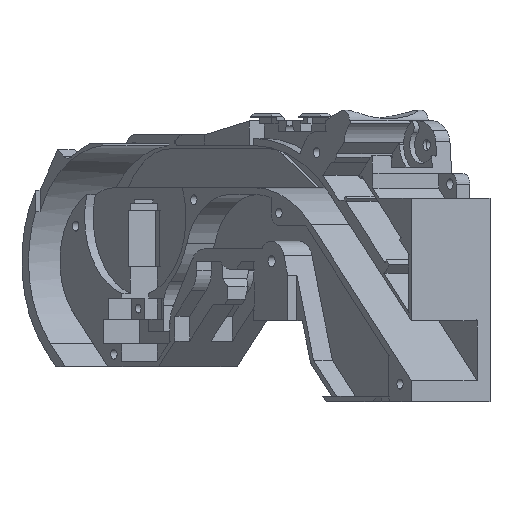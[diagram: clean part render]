
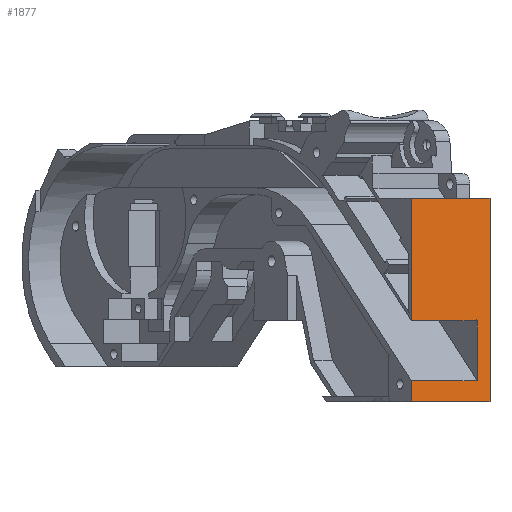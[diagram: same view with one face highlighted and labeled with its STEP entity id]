
A CAD part, left-side view. The second image highlights one B-rep face of the part: STEP entity #1877.
In plain terms, the highlighted planar face has unit normal (-0.767, -0.642, 0).
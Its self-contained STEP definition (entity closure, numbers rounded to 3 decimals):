
#875 = VERTEX_POINT('',#876);
#876 = CARTESIAN_POINT('',(-33.899,-68.575,18.));
#882 = EDGE_CURVE('',#883,#875,#885,.T.);
#883 = VERTEX_POINT('',#884);
#884 = CARTESIAN_POINT('',(-33.899,-68.575,-40.));
#885 = LINE('',#886,#887);
#886 = CARTESIAN_POINT('',(-33.899,-68.575,-40.));
#887 = VECTOR('',#888,1.);
#888 = DIRECTION('',(0.,0.,1.));
#1634 = EDGE_CURVE('',#1635,#883,#1637,.T.);
#1635 = VERTEX_POINT('',#1636);
#1636 = CARTESIAN_POINT('',(-52.666,-46.139,-40.));
#1637 = LINE('',#1638,#1639);
#1638 = CARTESIAN_POINT('',(-53.693,-44.912,-40.));
#1639 = VECTOR('',#1640,1.);
#1640 = DIRECTION('',(0.642,-0.767,0.)
  );
#1877 = ADVANCED_FACE('',(#1878),#1928,.T.);
#1878 = FACE_BOUND('',#1879,.T.);
#1879 = EDGE_LOOP('',(#1880,#1888,#1889,#1890,#1898,#1906,#1914,#1922));
#1880 = ORIENTED_EDGE('',*,*,#1881,.F.);
#1881 = EDGE_CURVE('',#1635,#1882,#1884,.T.);
#1882 = VERTEX_POINT('',#1883);
#1883 = CARTESIAN_POINT('',(-52.666,-46.139,
    -33.971));
#1884 = LINE('',#1885,#1886);
#1885 = CARTESIAN_POINT('',(-52.666,-46.139,
    -23.842));
#1886 = VECTOR('',#1887,1.);
#1887 = DIRECTION('',(0.,0.,1.));
#1888 = ORIENTED_EDGE('',*,*,#1634,.T.);
#1889 = ORIENTED_EDGE('',*,*,#882,.T.);
#1890 = ORIENTED_EDGE('',*,*,#1891,.F.);
#1891 = EDGE_CURVE('',#1892,#875,#1894,.T.);
#1892 = VERTEX_POINT('',#1893);
#1893 = CARTESIAN_POINT('',(-52.666,-46.139,18.));
#1894 = LINE('',#1895,#1896);
#1895 = CARTESIAN_POINT('',(-53.693,-44.912,18.));
#1896 = VECTOR('',#1897,1.);
#1897 = DIRECTION('',(0.642,-0.767,0.)
  );
#1898 = ORIENTED_EDGE('',*,*,#1899,.F.);
#1899 = EDGE_CURVE('',#1900,#1892,#1902,.T.);
#1900 = VERTEX_POINT('',#1901);
#1901 = CARTESIAN_POINT('',(-52.666,-46.139,-17.));
#1902 = LINE('',#1903,#1904);
#1903 = CARTESIAN_POINT('',(-52.666,-46.139,
    -23.842));
#1904 = VECTOR('',#1905,1.);
#1905 = DIRECTION('',(0.,0.,1.));
#1906 = ORIENTED_EDGE('',*,*,#1907,.T.);
#1907 = EDGE_CURVE('',#1900,#1908,#1910,.T.);
#1908 = VERTEX_POINT('',#1909);
#1909 = CARTESIAN_POINT('',(-36.947,-64.932,-17.));
#1910 = LINE('',#1911,#1912);
#1911 = CARTESIAN_POINT('',(-53.693,-44.912,-17.));
#1912 = VECTOR('',#1913,1.);
#1913 = DIRECTION('',(0.642,-0.767,0.)
  );
#1914 = ORIENTED_EDGE('',*,*,#1915,.F.);
#1915 = EDGE_CURVE('',#1916,#1908,#1918,.T.);
#1916 = VERTEX_POINT('',#1917);
#1917 = CARTESIAN_POINT('',(-36.947,-64.932,
    -33.971));
#1918 = LINE('',#1919,#1920);
#1919 = CARTESIAN_POINT('',(-36.947,-64.932,
    -18.322));
#1920 = VECTOR('',#1921,1.);
#1921 = DIRECTION('',(0.,0.,1.));
#1922 = ORIENTED_EDGE('',*,*,#1923,.F.);
#1923 = EDGE_CURVE('',#1882,#1916,#1924,.T.);
#1924 = LINE('',#1925,#1926);
#1925 = CARTESIAN_POINT('',(-53.693,-44.912,
    -33.971));
#1926 = VECTOR('',#1927,1.);
#1927 = DIRECTION('',(0.642,-0.767,0.)
  );
#1928 = PLANE('',#1929);
#1929 = AXIS2_PLACEMENT_3D('',#1930,#1931,#1932);
#1930 = CARTESIAN_POINT('',(-53.693,-44.912,-40.));
#1931 = DIRECTION('',(-0.767,-0.642,0.));
#1932 = DIRECTION('',(0.,0.,1.));
